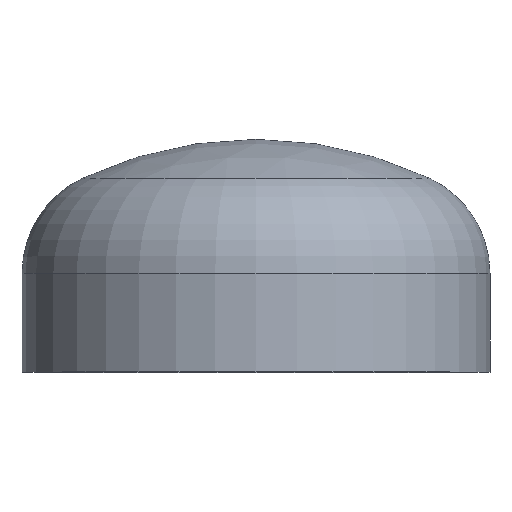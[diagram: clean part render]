
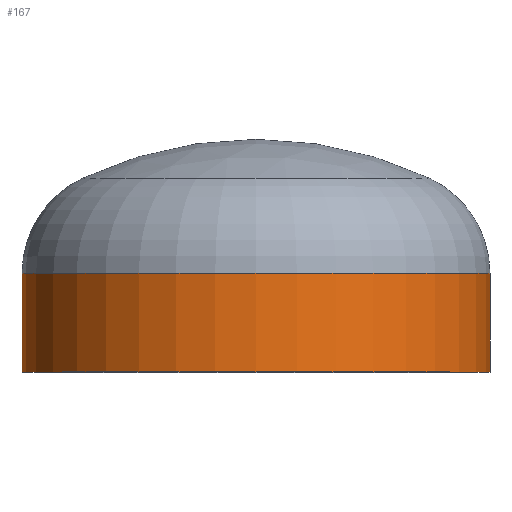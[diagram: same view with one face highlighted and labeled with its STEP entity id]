
A CAD part, top view. The second image highlights one B-rep face of the part: STEP entity #167.
In plain terms, the highlighted cylindrical face has radius 177.8 mm (diameter 355.6 mm), a partial arc.
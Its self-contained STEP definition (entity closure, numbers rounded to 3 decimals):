
#10 = FACE_OUTER_BOUND ( 'NONE', #127, .T. ) ;
#12 = VERTEX_POINT ( 'NONE', #343 ) ;
#17 = ORIENTED_EDGE ( 'NONE', *, *, #109, .T. ) ;
#18 = VERTEX_POINT ( 'NONE', #248 ) ;
#20 = VERTEX_POINT ( 'NONE', #257 ) ;
#26 = DIRECTION ( 'NONE',  ( 0., -1., 0. ) ) ;
#29 = AXIS2_PLACEMENT_3D ( 'NONE', #331, #297, #298 ) ;
#47 = VERTEX_POINT ( 'NONE', #77 ) ;
#57 = AXIS2_PLACEMENT_3D ( 'NONE', #236, #377, #398 ) ;
#58 = ORIENTED_EDGE ( 'NONE', *, *, #340, .F. ) ;
#77 = CARTESIAN_POINT ( 'NONE',  ( -177.8, 75., 0. ) ) ;
#94 = AXIS2_PLACEMENT_3D ( 'NONE', #301, #305, #299 ) ;
#104 = EDGE_CURVE ( 'NONE', #20, #12, #267, .T. ) ;
#108 = VECTOR ( 'NONE', #26, 1000. ) ;
#109 = EDGE_CURVE ( 'NONE', #47, #18, #333, .T. ) ;
#111 = EDGE_CURVE ( 'NONE', #20, #47, #383, .T. ) ;
#127 = EDGE_LOOP ( 'NONE', ( #218, #17, #58, #149 ) ) ;
#149 = ORIENTED_EDGE ( 'NONE', *, *, #104, .F. ) ;
#167 = ADVANCED_FACE ( 'NONE', ( #10 ), #295, .T. ) ;
#183 = CARTESIAN_POINT ( 'NONE',  ( 177.8, 0., 0. ) ) ;
#185 = DIRECTION ( 'NONE',  ( 0., -1., 0. ) ) ;
#218 = ORIENTED_EDGE ( 'NONE', *, *, #111, .T. ) ;
#229 = CARTESIAN_POINT ( 'NONE',  ( -177.8, 0., 0. ) ) ;
#236 = CARTESIAN_POINT ( 'NONE',  ( 0., 0., 0. ) ) ;
#248 = CARTESIAN_POINT ( 'NONE',  ( -177.8, 0., 0. ) ) ;
#257 = CARTESIAN_POINT ( 'NONE',  ( 177.8, 75., 0. ) ) ;
#267 = LINE ( 'NONE', #183, #108 ) ;
#295 = CYLINDRICAL_SURFACE ( 'NONE', #57, 177.8 ) ;
#297 = DIRECTION ( 'NONE',  ( 0., -1., 0. ) ) ;
#298 = DIRECTION ( 'NONE',  ( 1., 0., 0. ) ) ;
#299 = DIRECTION ( 'NONE',  ( 1., 0., 0. ) ) ;
#301 = CARTESIAN_POINT ( 'NONE',  ( 0., 75., 0. ) ) ;
#305 = DIRECTION ( 'NONE',  ( 0., -1., 0. ) ) ;
#323 = VECTOR ( 'NONE', #185, 1000. ) ;
#331 = CARTESIAN_POINT ( 'NONE',  ( 0., 0., 0. ) ) ;
#333 = LINE ( 'NONE', #229, #323 ) ;
#340 = EDGE_CURVE ( 'NONE', #12, #18, #397, .T. ) ;
#343 = CARTESIAN_POINT ( 'NONE',  ( 177.8, 0., 0. ) ) ;
#377 = DIRECTION ( 'NONE',  ( 0., -1., 0. ) ) ;
#383 = CIRCLE ( 'NONE', #94, 177.8 ) ;
#397 = CIRCLE ( 'NONE', #29, 177.8 ) ;
#398 = DIRECTION ( 'NONE',  ( 1., 0., 0. ) ) ;
